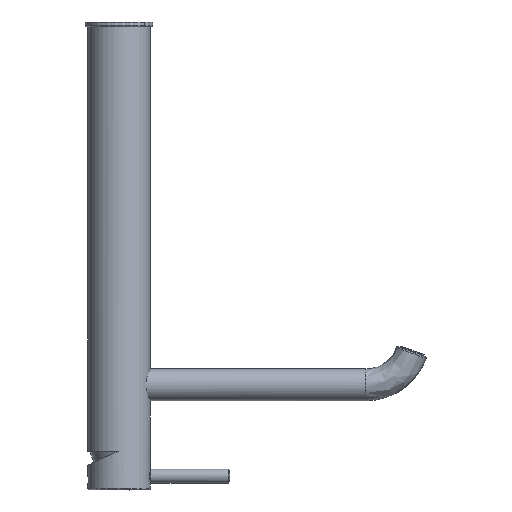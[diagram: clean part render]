
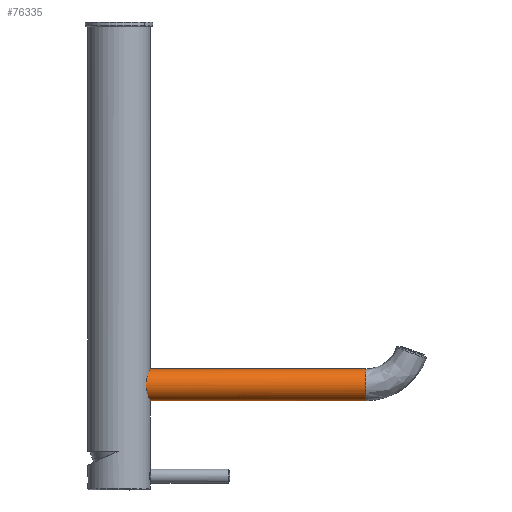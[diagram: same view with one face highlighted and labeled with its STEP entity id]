
A CAD part, front view. The second image highlights one B-rep face of the part: STEP entity #76335.
In plain terms, the highlighted cylindrical face has radius 11.5 mm (diameter 23 mm), a partial arc.
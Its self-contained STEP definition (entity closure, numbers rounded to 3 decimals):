
#1473 = VECTOR ( 'NONE', #109237, 1000. ) ;
#3340 = CARTESIAN_POINT ( 'NONE',  ( 21.177, -7.609, 56.431 ) ) ;
#4349 = CARTESIAN_POINT ( 'NONE',  ( 20.178, -9.965, 53.588 ) ) ;
#4704 = AXIS2_PLACEMENT_3D ( 'NONE', #175353, #34044, #97033 ) ;
#6389 = CARTESIAN_POINT ( 'NONE',  ( 20.878, -8.394, 39.93 ) ) ;
#7396 = CARTESIAN_POINT ( 'NONE',  ( 178.326, 0., 36.3 ) ) ;
#7437 = CARTESIAN_POINT ( 'NONE',  ( 22.346, -2.651, 58.997 ) ) ;
#8408 = LINE ( 'NONE', #7396, #27598 ) ;
#12551 = CARTESIAN_POINT ( 'NONE',  ( 22.126, -4.103, 37.05 ) ) ;
#14595 = CIRCLE ( 'NONE', #4704, 11.5 ) ;
#18183 = EDGE_CURVE ( 'NONE', #179075, #61237, #128157, .T. ) ;
#19864 = CARTESIAN_POINT ( 'NONE',  ( 21.748, -5.806, 57.755 ) ) ;
#20253 = CARTESIAN_POINT ( 'NONE',  ( 178.326, 0., 59.3 ) ) ;
#20906 = CARTESIAN_POINT ( 'NONE',  ( 19.339, -11.5, 47.429 ) ) ;
#21918 = CARTESIAN_POINT ( 'NONE',  ( 20.573, -9.114, 40.777 ) ) ;
#26961 = CARTESIAN_POINT ( 'NONE',  ( 22.5, 0., 36.3 ) ) ;
#27598 = VECTOR ( 'NONE', #71380, 1000. ) ;
#34044 = DIRECTION ( 'NONE',  ( -1., 0., 0. ) ) ;
#35286 = CARTESIAN_POINT ( 'NONE',  ( 20.47, -9.343, 54.515 ) ) ;
#36929 = EDGE_LOOP ( 'NONE', ( #152044, #93127, #188343, #116668 ) ) ;
#37260 = CARTESIAN_POINT ( 'NONE',  ( 178.326, 0., 36.3 ) ) ;
#37320 = CARTESIAN_POINT ( 'NONE',  ( 21.47, -6.736, 57.128 ) ) ;
#38327 = CARTESIAN_POINT ( 'NONE',  ( 19.386, -11.423, 49.333 ) ) ;
#39843 = EDGE_CURVE ( 'NONE', #103540, #161579, #14595, .T. ) ;
#40767 = CYLINDRICAL_SURFACE ( 'NONE', #83947, 11.5 ) ;
#41409 = CARTESIAN_POINT ( 'NONE',  ( 22.188, -3.749, 36.922 ) ) ;
#42381 = CARTESIAN_POINT ( 'NONE',  ( 22.5, 0., 36.3 ) ) ;
#49766 = CARTESIAN_POINT ( 'NONE',  ( 19.767, -10.749, 51.903 ) ) ;
#51787 = CARTESIAN_POINT ( 'NONE',  ( 19.429, -11.348, 45.897 ) ) ;
#52833 = CARTESIAN_POINT ( 'NONE',  ( 19.696, -10.878, 51.55 ) ) ;
#53847 = CARTESIAN_POINT ( 'NONE',  ( 22.5, -0.775, 59.3 ) ) ;
#59311 = FACE_OUTER_BOUND ( 'NONE', #36929, .T. ) ;
#61237 = VERTEX_POINT ( 'NONE', #42381 ) ;
#66285 = CARTESIAN_POINT ( 'NONE',  ( 20.571, -9.12, 54.816 ) ) ;
#70404 = CARTESIAN_POINT ( 'NONE',  ( 19.34, -11.499, 48.578 ) ) ;
#71380 = DIRECTION ( 'NONE',  ( 1., 0., 0. ) ) ;
#74492 = CARTESIAN_POINT ( 'NONE',  ( 22.347, -2.65, 36.603 ) ) ;
#76335 = ADVANCED_FACE ( 'NONE', ( #59311 ), #40767, .T. ) ;
#82827 = CARTESIAN_POINT ( 'NONE',  ( 22.188, -3.75, 58.678 ) ) ;
#83947 = AXIS2_PLACEMENT_3D ( 'NONE', #125199, #190188, #159257 ) ;
#86894 = CARTESIAN_POINT ( 'NONE',  ( 22.299, -3.024, 36.698 ) ) ;
#93127 = ORIENTED_EDGE ( 'NONE', *, *, #18183, .T. ) ;
#97033 = DIRECTION ( 'NONE',  ( 0., 0., -1. ) ) ;
#98637 = LINE ( 'NONE', #20253, #1473 ) ;
#99272 = CARTESIAN_POINT ( 'NONE',  ( 22.5, 0., 59.3 ) ) ;
#100294 = CARTESIAN_POINT ( 'NONE',  ( 22.125, -4.108, 58.548 ) ) ;
#101318 = CARTESIAN_POINT ( 'NONE',  ( 21.914, -5.15, 58.11 ) ) ;
#103540 = VERTEX_POINT ( 'NONE', #37260 ) ;
#109237 = DIRECTION ( 'NONE',  ( 1., 0., 0. ) ) ;
#112569 = CARTESIAN_POINT ( 'NONE',  ( 20.472, -9.338, 41.078 ) ) ;
#114621 = CARTESIAN_POINT ( 'NONE',  ( 19.569, -11.104, 44.786 ) ) ;
#115657 = CARTESIAN_POINT ( 'NONE',  ( 20.18, -9.96, 42.004 ) ) ;
#116668 = ORIENTED_EDGE ( 'NONE', *, *, #39843, .T. ) ;
#116693 = CARTESIAN_POINT ( 'NONE',  ( 19.999, -10.314, 42.658 ) ) ;
#125199 = CARTESIAN_POINT ( 'NONE',  ( 178.326, 0., 47.8 ) ) ;
#128157 = B_SPLINE_CURVE_WITH_KNOTS ( 'NONE', 3,
 ( #99272, #53847, #161161, #7437, #144643, #82827, #100294, #101318, #19864, #37320, #177578, #3340, #194047, #145663, #179633, #66285, #35286, #4349, #129131, #49766, #52833, #130119, #192032, #38327, #70404, #20906, #193029, #147727, #51787, #195047, #114621, #163183, #162179, #116693, #115657, #112569, #21918, #178601, #6389, #164209, #175551, #181698, #150767, #12551, #41409, #86894, #74492, #137309, #180686, #26961 ),
 .UNSPECIFIED., .F., .F.,
 ( 4, 2, 2, 2, 2, 2, 2, 2, 2, 2, 2, 2, 2, 2, 2, 2, 2, 2, 2, 2, 2, 2, 2, 2, 4 ),
 ( 0., 0.002, 0.003, 0.005, 0.007, 0.008, 0.009, 0.01, 0.011, 0.014, 0.015, 0.016, 0.018, 0.019, 0.021, 0.022, 0.023, 0.025, 0.026, 0.027, 0.03, 0.032, 0.033, 0.034, 0.037 ),
 .UNSPECIFIED. ) ;
#129131 = CARTESIAN_POINT ( 'NONE',  ( 19.998, -10.316, 52.936 ) ) ;
#130119 = CARTESIAN_POINT ( 'NONE',  ( 19.571, -11.102, 50.823 ) ) ;
#137309 = CARTESIAN_POINT ( 'NONE',  ( 22.461, -1.523, 36.375 ) ) ;
#144643 = CARTESIAN_POINT ( 'NONE',  ( 22.299, -3.02, 58.903 ) ) ;
#145663 = CARTESIAN_POINT ( 'NONE',  ( 20.874, -8.402, 55.661 ) ) ;
#147727 = CARTESIAN_POINT ( 'NONE',  ( 19.395, -11.405, 46.275 ) ) ;
#149611 = EDGE_CURVE ( 'NONE', #61237, #103540, #8408, .T. ) ;
#150767 = CARTESIAN_POINT ( 'NONE',  ( 21.917, -5.138, 37.485 ) ) ;
#152044 = ORIENTED_EDGE ( 'NONE', *, *, #194885, .F. ) ;
#152130 = CARTESIAN_POINT ( 'NONE',  ( 178.326, 0., 59.3 ) ) ;
#159257 = DIRECTION ( 'NONE',  ( 0., 0., -1. ) ) ;
#161161 = CARTESIAN_POINT ( 'NONE',  ( 22.46, -1.534, 59.223 ) ) ;
#161579 = VERTEX_POINT ( 'NONE', #152130 ) ;
#162179 = CARTESIAN_POINT ( 'NONE',  ( 19.766, -10.752, 43.702 ) ) ;
#163183 = CARTESIAN_POINT ( 'NONE',  ( 19.694, -10.882, 44.061 ) ) ;
#164209 = CARTESIAN_POINT ( 'NONE',  ( 21.181, -7.612, 39.148 ) ) ;
#175353 = CARTESIAN_POINT ( 'NONE',  ( 178.326, 0., 47.8 ) ) ;
#175551 = CARTESIAN_POINT ( 'NONE',  ( 21.379, -7.042, 38.678 ) ) ;
#177578 = CARTESIAN_POINT ( 'NONE',  ( 21.373, -7.037, 56.903 ) ) ;
#178601 = CARTESIAN_POINT ( 'NONE',  ( 20.776, -8.642, 40.204 ) ) ;
#179075 = VERTEX_POINT ( 'NONE', #193284 ) ;
#179633 = CARTESIAN_POINT ( 'NONE',  ( 20.773, -8.649, 55.388 ) ) ;
#180686 = CARTESIAN_POINT ( 'NONE',  ( 22.5, -0.765, 36.3 ) ) ;
#181698 = CARTESIAN_POINT ( 'NONE',  ( 21.75, -5.796, 37.839 ) ) ;
#188343 = ORIENTED_EDGE ( 'NONE', *, *, #149611, .T. ) ;
#190188 = DIRECTION ( 'NONE',  ( 1., 0., 0. ) ) ;
#192032 = CARTESIAN_POINT ( 'NONE',  ( 19.516, -11.197, 50.451 ) ) ;
#193029 = CARTESIAN_POINT ( 'NONE',  ( 19.35, -11.481, 47.04 ) ) ;
#193284 = CARTESIAN_POINT ( 'NONE',  ( 22.5, 0., 59.3 ) ) ;
#194047 = CARTESIAN_POINT ( 'NONE',  ( 21.076, -7.881, 56.183 ) ) ;
#194885 = EDGE_CURVE ( 'NONE', #179075, #161579, #98637, .T. ) ;
#195047 = CARTESIAN_POINT ( 'NONE',  ( 19.516, -11.198, 45.153 ) ) ;
